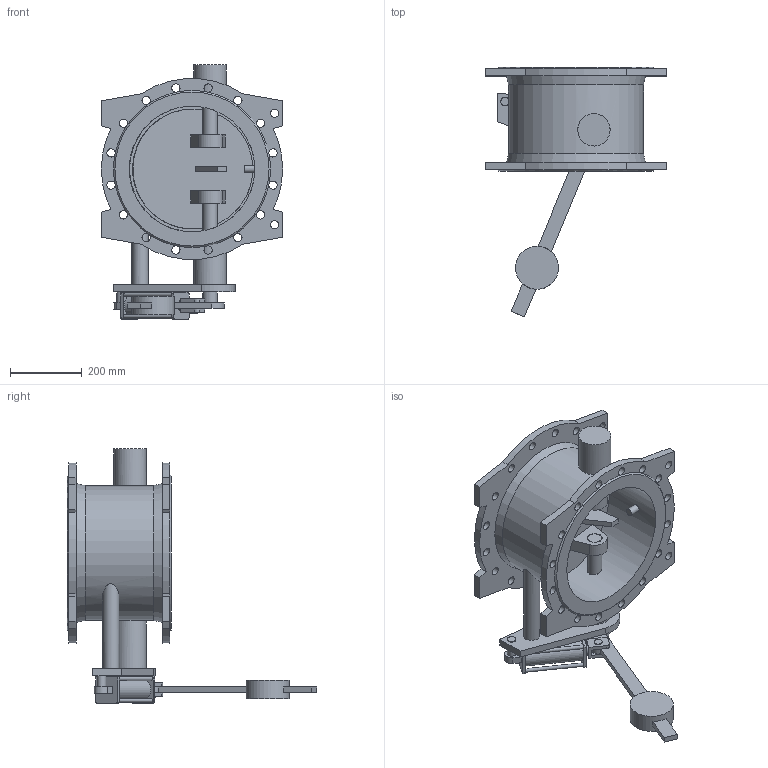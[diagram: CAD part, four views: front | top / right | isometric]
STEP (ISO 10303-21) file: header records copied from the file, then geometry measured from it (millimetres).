
FILE_DESCRIPTION(('STEP AP203'), '1');
FILE_NAME('Êëàïàí 015F.PV DN350 PN10 ñ ïðîòèâîâåñîì ñ äåìïôåðîì', '', ('UNSPECIFIED'), ('UNSPECIFIED'), 'ASCON STEP Converter 1.6', 'ASCON Math Kernel', '');
FILE_SCHEMA(('CONFIG_CONTROL_DESIGN'));
Length unit declared in the file: millimetre
Bounding box: 505 x 695 x 708 mm (x, y, z)
Volume: 14943025.7 mm3; surface area: 1827931.6 mm2
Topology: 1 solids, 1 shells, 199 faces, 561 edges, 361 vertices
Faces by surface type: plane 100, cylinder 90, cone 4, extrusion 2, torus 2, bspline 1
Full cylindrical faces by diameter (mm): 10 x4, 12 x1, 14 x2, 20 x1, 22 x4, 23 x36, 24 x3, 30 x1, 40 x3, 42 x2, 45 x1, 60 x1, 90 x2, 120 x1, 350 x1, 376 x1
Entity records: 9927 total; most frequent: CARTESIAN_POINT 3168, DIRECTION 1066, ORIENTED_EDGE 932, EDGE_CURVE 466, AXIS2_PLACEMENT_3D 425, EDGE_LOOP 398, VERTEX_POINT 351, FACE_BOUND 282
